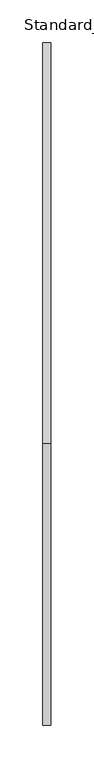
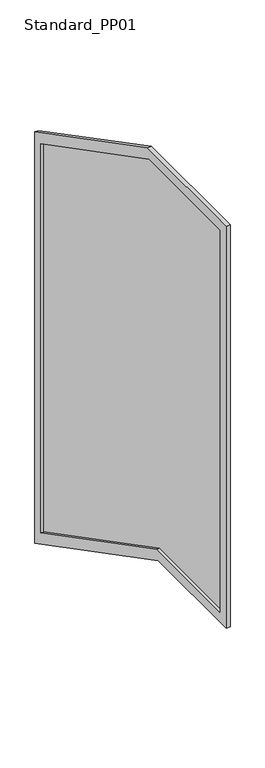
"""IFC4 building model written with IfcOpenShell, lengths in millimetres: railing geometry, Baluster-Landing-Panel-VIVA-STRUC-Lower : Standard_PP01."""

from ifc_helpers import new_model, si_unit, frame, origin, place, context, project, spatial, polyline, outline, extrude, source, transform, mapped, element, save


def standard_pp01_a99eba28(model_context):
    return source(origin(), model_context, "Body", "SweptSolid", [
        extrude(outline(polyline([(-508.8760777, -68.9880009), (-773.9140023, -68.9880009), (-773.9140023, 906.145), (-475.10268, 906.145), (-25.4, 672.0446023), (-25.4, -320.6697167), (-508.8760777, -68.9880009)])), frame((14.2584857, 0.0, 0.0), z_axis=(1.0, 0.0, 0.0), x_axis=(0.0, 1.0, 0.0)), (0.0, 0.0, 1.0), 2.9972),
        extrude(outline(polyline([(0.0, -362.5276212), (-515.0914182, -94.3880009), (-799.3140023, -94.3880009), (-799.3140023, 931.545), (-468.8873395, 931.545), (0.0, 687.4577006), (0.0, -362.5276212)]), holes=[polyline([(-773.9140023, 906.145), (-773.9140023, -68.9880009), (-508.8760777, -68.9880009), (-25.4, -320.6697167), (-25.4, 672.0446023), (-475.10268, 906.145), (-773.9140023, 906.145)])]), frame((7.6036857, 0.0, 0.0), z_axis=(1.0, 0.0, 0.0), x_axis=(0.0, 1.0, 0.0)), (0.0, 0.0, 1.0), 9.652),
    ])


if __name__ == "__main__":
    model = new_model("IFC4")
    model_context = context("Model", 3, world=origin())
    ifc_project = project(units=[si_unit("LENGTHUNIT", "METRE", prefix="MILLI")], contexts=[model_context])
    site = spatial("IfcSite", under=ifc_project)
    building = spatial("IfcBuilding", under=site)
    placement = place(None, origin())
    standard_pp01_shape = standard_pp01_a99eba28(model_context)
    element("IfcRailing", 1, ObjectType="Baluster-Landing-Panel-VIVA-STRUC-Lower : Standard_PP01", at=placement, inside=building, context=model_context, shape_type="MappedRepresentation", body=[
        mapped(standard_pp01_shape, transform((0.0, 0.0, 0.0), x_axis=(1.0, 0.0, 0.0), y_axis=(0.0, 1.0, 0.0), z_axis=(0.0, 0.0, 1.0))),
    ])
    save(model, "model.ifc")
